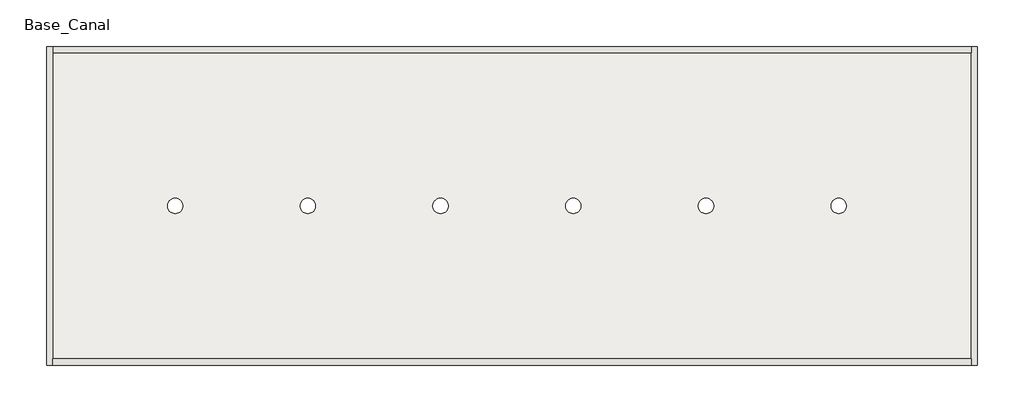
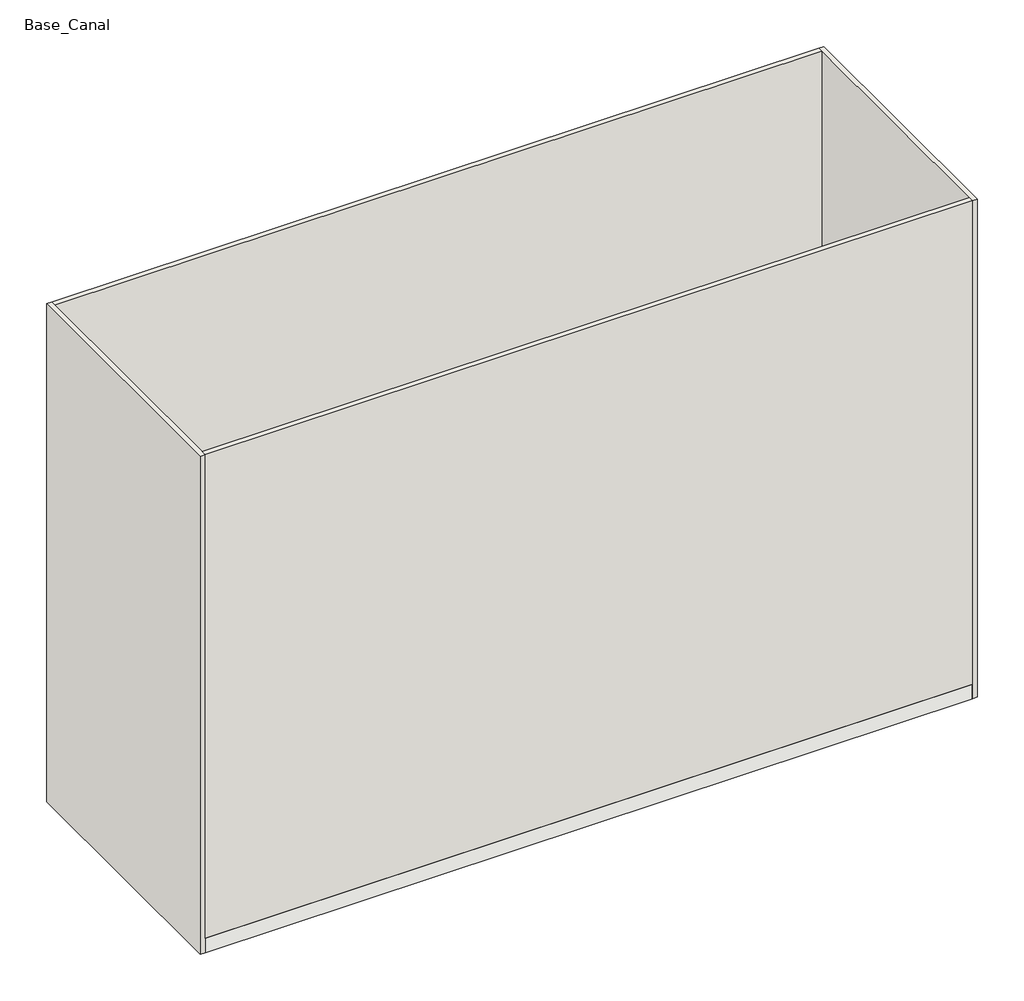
# One storey: 4 walls, 1 slab.
"""IFC4 building model written with IfcOpenShell, lengths in millimetres."""

from ifc_helpers import new_model, si_unit, point, frame, frame_2d, origin, origin_with_axes, place, context, project, spatial, polyline, circle_curve, trimmed, segment, composite_curve, outline, extrude, element, save

model = new_model("IFC4")

# Units and contexts
model_context = context("Model", 3, world=origin())
ifc_project = project(units=[si_unit("LENGTHUNIT", "METRE", prefix="MILLI")], contexts=[model_context])

# Site, building, storey
site = spatial("IfcSite", under=ifc_project)
building = spatial("IfcBuilding", under=site)
storey = spatial("IfcBuildingStorey", under=building, Name="Base_Canal", Elevation=-0.03)

# Slab
placement = place(None, origin())
element("IfcSlab", 1, ObjectType="MyFloorType-Variable", at=placement, inside=storey, context=model_context, shape_type="SweptSolid", body=[
    extrude(outline(polyline([(0.0, 510.0), (1500.0, 510.0), (1500.0, -10.0), (0.0, -10.0), (0.0, 510.0)]), holes=[composite_curve([segment(trimmed(circle_curve(frame_2d((200.0, 250.0)), 12.5), [point((200.0, 262.5))], [point((200.0, 237.5))], True, "CARTESIAN"), True, "CONTINUOUS"), segment(trimmed(circle_curve(frame_2d((200.0, 250.0)), 12.5), [point((200.0, 237.5))], [point((200.0, 262.5))], True, "CARTESIAN"), True, "CONTINUOUS")], self_intersect=False), composite_curve([segment(trimmed(circle_curve(frame_2d((416.666667, 250.0)), 12.5), [point((416.666667, 262.5))], [point((416.666667, 237.5))], True, "CARTESIAN"), True, "CONTINUOUS"), segment(trimmed(circle_curve(frame_2d((416.666667, 250.0)), 12.5), [point((416.666667, 237.5))], [point((416.666667, 262.5))], True, "CARTESIAN"), True, "CONTINUOUS")], self_intersect=False), composite_curve([segment(trimmed(circle_curve(frame_2d((633.333333, 250.0)), 12.5), [point((633.333333, 262.5))], [point((633.333333, 237.5))], True, "CARTESIAN"), True, "CONTINUOUS"), segment(trimmed(circle_curve(frame_2d((633.333333, 250.0)), 12.5), [point((633.333333, 237.5))], [point((633.333333, 262.5))], True, "CARTESIAN"), True, "CONTINUOUS")], self_intersect=False), composite_curve([segment(trimmed(circle_curve(frame_2d((850.0, 250.0)), 12.5), [point((850.0, 262.5))], [point((850.0, 237.5))], True, "CARTESIAN"), True, "CONTINUOUS"), segment(trimmed(circle_curve(frame_2d((850.0, 250.0)), 12.5), [point((850.0, 237.5))], [point((850.0, 262.5))], True, "CARTESIAN"), True, "CONTINUOUS")], self_intersect=False), composite_curve([segment(trimmed(circle_curve(frame_2d((1066.666667, 250.0)), 12.5), [point((1066.666667, 262.5))], [point((1066.666667, 237.5))], True, "CARTESIAN"), True, "CONTINUOUS"), segment(trimmed(circle_curve(frame_2d((1066.666667, 250.0)), 12.5), [point((1066.666667, 237.5))], [point((1066.666667, 262.5))], True, "CARTESIAN"), True, "CONTINUOUS")], self_intersect=False), composite_curve([segment(trimmed(circle_curve(frame_2d((1283.333333, 250.0)), 12.5), [point((1283.333333, 262.5))], [point((1283.333333, 237.5))], True, "CARTESIAN"), True, "CONTINUOUS"), segment(trimmed(circle_curve(frame_2d((1283.333333, 250.0)), 12.5), [point((1283.333333, 237.5))], [point((1283.333333, 262.5))], True, "CARTESIAN"), True, "CONTINUOUS")], self_intersect=False)]), frame((0.0, 0.0, -30.0), z_axis=(0.0, 0.0, 1.0), x_axis=(1.0, 0.0, 0.0)), (0.0, 0.0, 1.0), 30.0),
])

# Walls
element("IfcWall", 2, ObjectType="MyWall-Variable", at=placement, inside=storey, context=model_context, shape_type="SweptSolid", body=[
    extrude(outline(polyline([(1500.0, -10.0), (0.0, -10.0), (0.0, 0.0), (1500.0, 0.0), (1500.0, -10.0)])), origin_with_axes(), (0.0, 0.0, 1.0), 1000.0),
])
element("IfcWall", 3, ObjectType="MyWall-Variable", at=placement, inside=storey, context=model_context, shape_type="SweptSolid", body=[
    extrude(outline(polyline([(1500.0, 500.0), (0.0, 500.0), (0.0, 510.0), (1500.0, 510.0), (1500.0, 500.0)])), origin_with_axes(), (0.0, 0.0, 1.0), 1000.0),
])
element("IfcWall", 4, ObjectType="MyWall-Variable", at=placement, inside=storey, context=model_context, shape_type="SweptSolid", body=[
    extrude(outline(polyline([(0.0, 510.0), (0.0, -10.0), (-10.0, -10.0), (-10.0, 510.0), (0.0, 510.0)])), frame((0.0, 0.0, -30.0), z_axis=(0.0, 0.0, 1.0), x_axis=(1.0, 0.0, 0.0)), (0.0, 0.0, 1.0), 1030.0),
])
element("IfcWall", 5, ObjectType="MyWall-Variable", at=placement, inside=storey, context=model_context, shape_type="SweptSolid", body=[
    extrude(outline(polyline([(1510.0, 510.0), (1510.0, -10.0), (1500.0, -10.0), (1500.0, 510.0), (1510.0, 510.0)])), frame((0.0, 0.0, -30.0), z_axis=(0.0, 0.0, 1.0), x_axis=(1.0, 0.0, 0.0)), (0.0, 0.0, 1.0), 1030.0),
])

save(model, "model.ifc")
